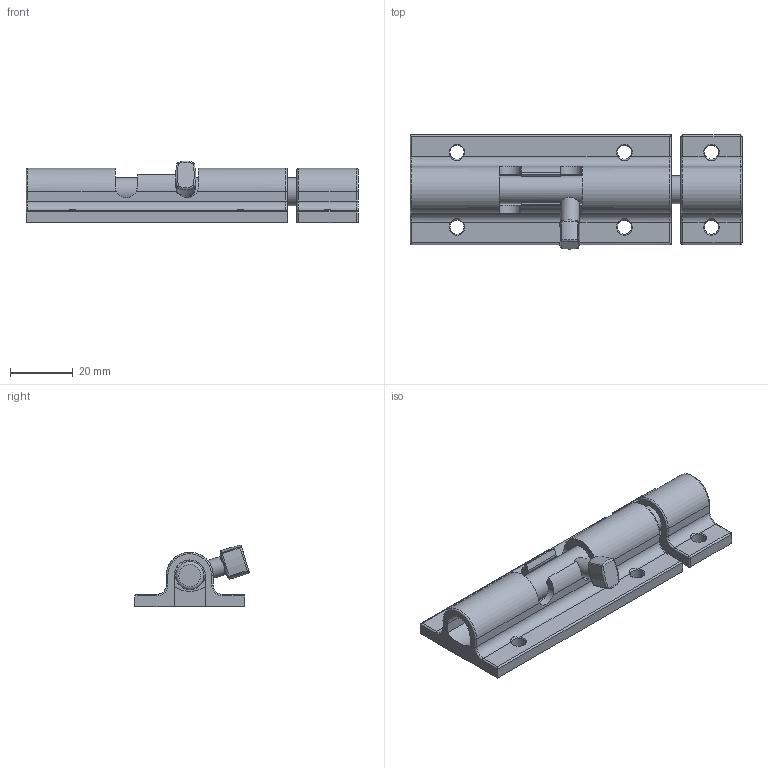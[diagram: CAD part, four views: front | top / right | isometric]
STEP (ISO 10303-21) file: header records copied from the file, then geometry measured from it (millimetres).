
FILE_DESCRIPTION(/* description */ (''),/* implementation_level */ '2;1');
FILE_NAME(/* name */ '\\NAS\db20\ODC5-4S\DR_ODC5-4S.stp',/* time_stamp */ '2017-09-01T09:25:10+09:00',/* author */ ('user'),/* organization */ (''),/* preprocessor_version */ 'ST-DEVELOPER v15.6',/* originating_system */ 'Autodesk Inventor 2015',/* authorisation */ '');
FILE_SCHEMA (('AUTOMOTIVE_DESIGN { 1 0 10303 214 3 1 1 }'));
Length unit declared in the file: millimetre
Products named in the file (4): DR_ODC5-4S; DR_ODC5-4S-BR; DR_ODC5-4S-C
Bounding box: 106.04 x 36.46 x 19.77 mm (x, y, z)
Volume: 29333 mm3; surface area: 19528.2 mm2
Topology: 5 solids, 5 shells, 155 faces, 389 edges, 236 vertices
Faces by surface type: cylinder 64, plane 47, torus 24, sphere 12, cone 6, bspline 2
Full cylindrical faces by diameter (mm): 4.5 x6, 6 x1, 9 x1
Entity records: 4860 total; most frequent: CARTESIAN_POINT 1135, DIRECTION 826, ORIENTED_EDGE 714, EDGE_CURVE 357, AXIS2_PLACEMENT_3D 336, VERTEX_POINT 221, EDGE_LOOP 178, CIRCLE 172
